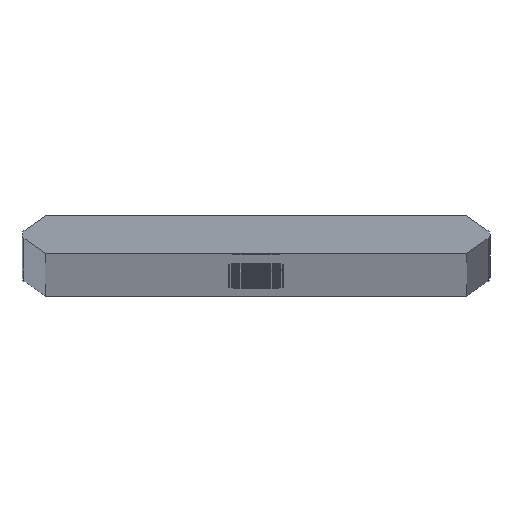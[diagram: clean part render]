
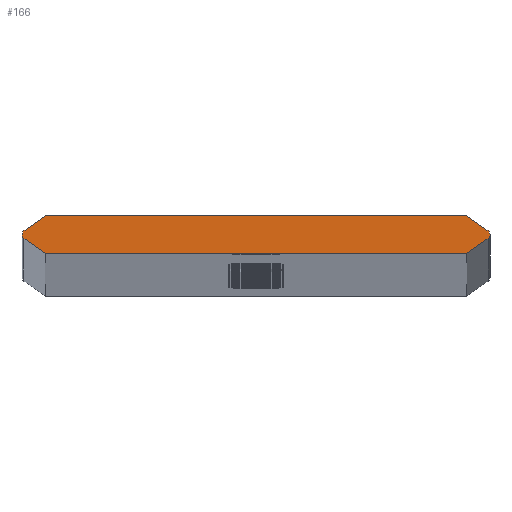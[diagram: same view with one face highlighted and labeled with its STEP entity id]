
A CAD part, top view. The second image highlights one B-rep face of the part: STEP entity #166.
In plain terms, the highlighted planar face has unit normal (0, 0, 1).
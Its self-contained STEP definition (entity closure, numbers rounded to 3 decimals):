
#166=ADVANCED_FACE('',(#358),#359,.T.);
#358=FACE_OUTER_BOUND('',#646,.T.);
#359=PLANE('',#647);
#646=EDGE_LOOP('',(#1389,#1390,#1391,#1392,#1393,#1394,#1395,#1396,#1397,#1398));
#647=AXIS2_PLACEMENT_3D('',#1399,#1400,#1401);
#1389=ORIENTED_EDGE('',*,*,#1645,.T.);
#1390=ORIENTED_EDGE('',*,*,#1914,.T.);
#1391=ORIENTED_EDGE('',*,*,#1915,.F.);
#1392=ORIENTED_EDGE('',*,*,#1916,.F.);
#1393=ORIENTED_EDGE('',*,*,#1917,.F.);
#1394=ORIENTED_EDGE('',*,*,#1641,.T.);
#1395=ORIENTED_EDGE('',*,*,#1918,.T.);
#1396=ORIENTED_EDGE('',*,*,#1919,.F.);
#1397=ORIENTED_EDGE('',*,*,#1920,.F.);
#1398=ORIENTED_EDGE('',*,*,#1921,.F.);
#1399=CARTESIAN_POINT('',(0.0,0.,3956.0));
#1400=DIRECTION('',(0.0,0.0,1.0));
#1401=DIRECTION('',(1.0,0.0,0.0));
#1641=EDGE_CURVE('',#1937,#1934,#1938,.T.);
#1645=EDGE_CURVE('',#1945,#1942,#1946,.T.);
#1914=EDGE_CURVE('',#1942,#2392,#2394,.T.);
#1915=EDGE_CURVE('',#2395,#2392,#2396,.T.);
#1916=EDGE_CURVE('',#2397,#2395,#2398,.T.);
#1917=EDGE_CURVE('',#1937,#2397,#2399,.T.);
#1918=EDGE_CURVE('',#1934,#2400,#2401,.T.);
#1919=EDGE_CURVE('',#2402,#2400,#2403,.T.);
#1920=EDGE_CURVE('',#2404,#2402,#2405,.T.);
#1921=EDGE_CURVE('',#1945,#2404,#2406,.T.);
#1934=VERTEX_POINT('',#2424);
#1937=VERTEX_POINT('',#2428);
#1938=CIRCLE('',#2429,0.76);
#1942=VERTEX_POINT('',#2434);
#1945=VERTEX_POINT('',#2438);
#1946=CIRCLE('',#2439,0.76);
#2392=VERTEX_POINT('',#2974);
#2394=CIRCLE('',#2977,0.76);
#2395=VERTEX_POINT('',#2978);
#2396=LINE('',#2979,#2980);
#2397=VERTEX_POINT('',#2981);
#2398=LINE('',#2982,#2983);
#2399=LINE('',#2984,#2985);
#2400=VERTEX_POINT('',#2986);
#2401=CIRCLE('',#2987,0.76);
#2402=VERTEX_POINT('',#2988);
#2403=LINE('',#2989,#2990);
#2404=VERTEX_POINT('',#2991);
#2405=LINE('',#2992,#2993);
#2406=LINE('',#2994,#2995);
#2424=CARTESIAN_POINT('',(37.84,0.,3956.0));
#2428=CARTESIAN_POINT('',(37.519,-0.62,3956.0));
#2429=AXIS2_PLACEMENT_3D('',#3025,#3026,#3027);
#2434=CARTESIAN_POINT('',(-37.84,0.,3956.0));
#2438=CARTESIAN_POINT('',(-37.519,0.62,3956.0));
#2439=AXIS2_PLACEMENT_3D('',#3033,#3034,#3035);
#2974=CARTESIAN_POINT('',(-37.519,-0.62,3956.0));
#2977=AXIS2_PLACEMENT_3D('',#3660,#3661,#3662);
#2978=CARTESIAN_POINT('',(-34.049,-3.05,3956.0));
#2979=CARTESIAN_POINT('',(-38.405,0.,3956.0));
#2980=VECTOR('',#3663,1.0);
#2981=CARTESIAN_POINT('',(34.049,-3.05,3956.0));
#2982=CARTESIAN_POINT('',(34.049,-3.05,3956.0));
#2983=VECTOR('',#3664,1.0);
#2984=CARTESIAN_POINT('',(38.405,0.0,3956.0));
#2985=VECTOR('',#3665,1.0);
#2986=CARTESIAN_POINT('',(37.519,0.62,3956.0));
#2987=AXIS2_PLACEMENT_3D('',#3666,#3667,#3668);
#2988=CARTESIAN_POINT('',(34.049,3.05,3956.0));
#2989=CARTESIAN_POINT('',(38.405,0.0,3956.0));
#2990=VECTOR('',#3669,1.0);
#2991=CARTESIAN_POINT('',(-34.049,3.05,3956.0));
#2992=CARTESIAN_POINT('',(-34.049,3.05,3956.0));
#2993=VECTOR('',#3670,1.0);
#2994=CARTESIAN_POINT('',(-38.405,0.,3956.0));
#2995=VECTOR('',#3671,1.0);
#3025=CARTESIAN_POINT('',(37.08,0.0,3956.0));
#3026=DIRECTION('',(0.0,0.0,1.0));
#3027=DIRECTION('',(1.0,0.0,0.0));
#3033=CARTESIAN_POINT('',(-37.08,0.,3956.0));
#3034=DIRECTION('',(0.0,0.0,1.0));
#3035=DIRECTION('',(-1.0,0.,0.0));
#3660=CARTESIAN_POINT('',(-37.08,0.,3956.0));
#3661=DIRECTION('',(0.0,0.0,1.0));
#3662=DIRECTION('',(-1.0,0.,0.0));
#3663=DIRECTION('',(-0.819,0.574,0.0));
#3664=DIRECTION('',(-1.0,0.,0.0));
#3665=DIRECTION('',(-0.819,-0.574,0.0));
#3666=CARTESIAN_POINT('',(37.08,0.0,3956.0));
#3667=DIRECTION('',(0.0,0.0,1.0));
#3668=DIRECTION('',(1.0,0.0,0.0));
#3669=DIRECTION('',(0.819,-0.574,0.0));
#3670=DIRECTION('',(1.0,0.,0.0));
#3671=DIRECTION('',(0.819,0.574,0.0));
